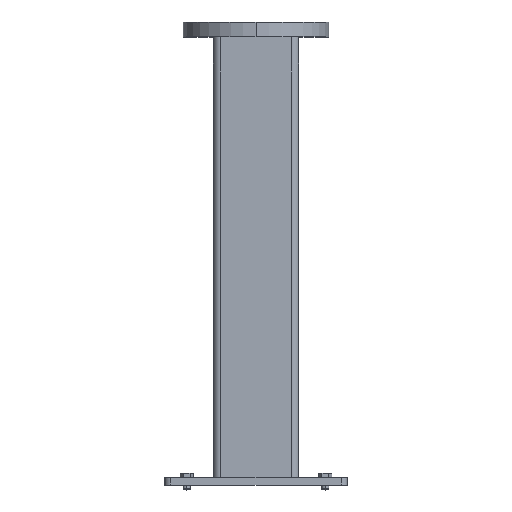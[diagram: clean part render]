
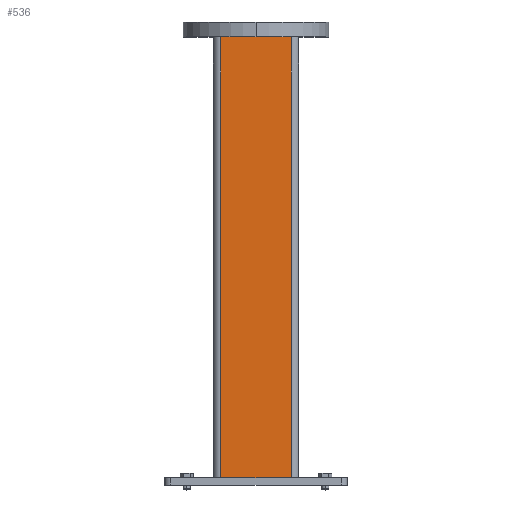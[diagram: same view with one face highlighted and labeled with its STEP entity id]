
A CAD part, top view. The second image highlights one B-rep face of the part: STEP entity #536.
In plain terms, the highlighted planar face has unit normal (0, 0, 1).
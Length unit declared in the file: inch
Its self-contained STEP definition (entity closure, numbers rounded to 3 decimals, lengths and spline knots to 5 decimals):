
#7 = VERTEX_POINT ( 'NONE', #3960 ) ;
#40 = EDGE_CURVE ( 'NONE', #4547, #2203, #1504, .T. ) ;
#121 = EDGE_CURVE ( 'NONE', #4547, #5159, #5189, .T. ) ;
#188 = EDGE_CURVE ( 'NONE', #5159, #7, #1332, .T. ) ;
#269 = VECTOR ( 'NONE', #3884, 39.37008 ) ;
#426 = DIRECTION ( 'NONE',  ( 0., 0., -1. ) ) ;
#536 = ADVANCED_FACE ( 'NONE', ( #5651 ), #1090, .F. ) ;
#663 = ORIENTED_EDGE ( 'NONE', *, *, #40, .T. ) ;
#758 = AXIS2_PLACEMENT_3D ( 'NONE', #3400, #426, #5725 ) ;
#1090 = PLANE ( 'NONE',  #758 ) ;
#1172 = ORIENTED_EDGE ( 'NONE', *, *, #188, .F. ) ;
#1181 = VECTOR ( 'NONE', #4016, 39.37008 ) ;
#1332 = LINE ( 'NONE', #5328, #5982 ) ;
#1389 = CARTESIAN_POINT ( 'NONE',  ( 2.28346, 28.54331, 2.75591 ) ) ;
#1504 = LINE ( 'NONE', #1577, #269 ) ;
#1577 = CARTESIAN_POINT ( 'NONE',  ( -2.28346, 28.54331, 2.75591 ) ) ;
#1735 = ORIENTED_EDGE ( 'NONE', *, *, #121, .F. ) ;
#2203 = VERTEX_POINT ( 'NONE', #6686 ) ;
#2292 = DIRECTION ( 'NONE',  ( 1., 0., 0. ) ) ;
#2583 = EDGE_LOOP ( 'NONE', ( #2728, #1172, #1735, #663 ) ) ;
#2587 = DIRECTION ( 'NONE',  ( 0., -1., 0. ) ) ;
#2728 = ORIENTED_EDGE ( 'NONE', *, *, #6131, .T. ) ;
#3254 = CARTESIAN_POINT ( 'NONE',  ( -2.28346, 28.54331, 2.75591 ) ) ;
#3400 = CARTESIAN_POINT ( 'NONE',  ( -2.28346, 28.54331, 2.75591 ) ) ;
#3884 = DIRECTION ( 'NONE',  ( 0., -1., 0. ) ) ;
#3960 = CARTESIAN_POINT ( 'NONE',  ( 2.28346, 0., 2.75591 ) ) ;
#4016 = DIRECTION ( 'NONE',  ( 1., 0., 0. ) ) ;
#4165 = VECTOR ( 'NONE', #2292, 39.37008 ) ;
#4547 = VERTEX_POINT ( 'NONE', #3254 ) ;
#4594 = CARTESIAN_POINT ( 'NONE',  ( -2.28346, 0., 2.75591 ) ) ;
#5159 = VERTEX_POINT ( 'NONE', #1389 ) ;
#5189 = LINE ( 'NONE', #7501, #4165 ) ;
#5328 = CARTESIAN_POINT ( 'NONE',  ( 2.28346, 28.54331, 2.75591 ) ) ;
#5651 = FACE_OUTER_BOUND ( 'NONE', #2583, .T. ) ;
#5725 = DIRECTION ( 'NONE',  ( -1., 0., 0. ) ) ;
#5982 = VECTOR ( 'NONE', #2587, 39.37008 ) ;
#6131 = EDGE_CURVE ( 'NONE', #2203, #7, #6941, .T. ) ;
#6686 = CARTESIAN_POINT ( 'NONE',  ( -2.28346, 0., 2.75591 ) ) ;
#6941 = LINE ( 'NONE', #4594, #1181 ) ;
#7501 = CARTESIAN_POINT ( 'NONE',  ( -2.28346, 28.54331, 2.75591 ) ) ;
